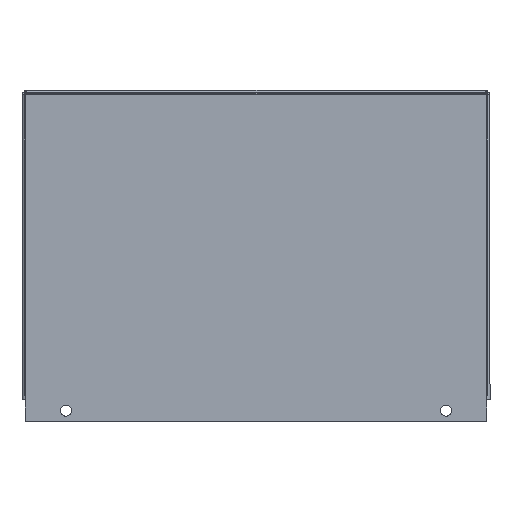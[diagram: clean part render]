
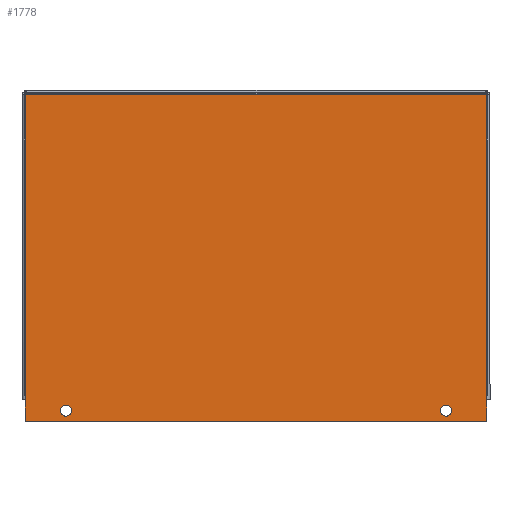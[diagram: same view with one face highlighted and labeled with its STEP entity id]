
A CAD part, left-side view. The second image highlights one B-rep face of the part: STEP entity #1778.
In plain terms, the highlighted planar face has unit normal (-1, 0, 0) as drawn and (0, 0, -1) by its records, which use the part's own axes.
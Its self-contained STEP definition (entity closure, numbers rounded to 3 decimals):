
#622=CARTESIAN_POINT('',(100.228,62.37,0.0));
#623=VERTEX_POINT('',#622);
#630=CARTESIAN_POINT('',(100.228,71.895,0.0));
#631=VERTEX_POINT('',#630);
#632=CARTESIAN_POINT('',(100.228,62.37,0.0));
#633=DIRECTION('',(0.0,1.0,0.0));
#634=VECTOR('',#633,9.525);
#635=LINE('',#632,#634);
#636=EDGE_CURVE('',#623,#631,#635,.T.);
#660=CARTESIAN_POINT('',(-100.228,71.895,0.0));
#661=VERTEX_POINT('',#660);
#677=CARTESIAN_POINT('',(100.228,71.895,0.0));
#678=DIRECTION('',(-1.0,0.0,0.0));
#679=VECTOR('',#678,200.457);
#680=LINE('',#677,#679);
#681=EDGE_CURVE('',#631,#661,#680,.T.);
#846=CARTESIAN_POINT('',(100.228,-70.308,0.0));
#847=VERTEX_POINT('',#846);
#1000=CARTESIAN_POINT('',(100.228,-70.308,0.0));
#1001=DIRECTION('',(0.0,1.0,0.0));
#1002=VECTOR('',#1001,132.678);
#1003=LINE('',#1000,#1002);
#1004=EDGE_CURVE('',#847,#623,#1003,.T.);
#1179=CARTESIAN_POINT('',(100.013,-70.523,0.0));
#1180=VERTEX_POINT('',#1179);
#1317=CARTESIAN_POINT('',(-100.013,-70.523,0.0));
#1318=VERTEX_POINT('',#1317);
#1440=CARTESIAN_POINT('',(-100.013,-70.523,0.0));
#1441=DIRECTION('',(1.0,0.0,0.0));
#1442=VECTOR('',#1441,200.026);
#1443=LINE('',#1440,#1442);
#1444=EDGE_CURVE('',#1318,#1180,#1443,.T.);
#1504=CARTESIAN_POINT('',(100.876,-71.171,0.0));
#1505=DIRECTION('',(0.0,0.0,1.0));
#1506=DIRECTION('',(1.0,0.0,0.0));
#1507=AXIS2_PLACEMENT_3D('',#1504,#1505,#1506);
#1508=CIRCLE('',#1507,1.08);
#1509=EDGE_CURVE('',#847,#1180,#1508,.T.);
#1547=CARTESIAN_POINT('',(-100.228,-70.308,0.0));
#1548=VERTEX_POINT('',#1547);
#1555=CARTESIAN_POINT('',(-100.876,-71.171,0.0));
#1556=DIRECTION('',(0.0,0.0,1.0));
#1557=DIRECTION('',(-1.0,0.0,0.0));
#1558=AXIS2_PLACEMENT_3D('',#1555,#1556,#1557);
#1559=CIRCLE('',#1558,1.08);
#1560=EDGE_CURVE('',#1318,#1548,#1559,.T.);
#1676=CARTESIAN_POINT('',(-100.228,62.37,0.0));
#1677=VERTEX_POINT('',#1676);
#1727=CARTESIAN_POINT('',(-100.228,62.37,0.0));
#1728=DIRECTION('',(0.0,1.0,0.0));
#1729=VECTOR('',#1728,9.525);
#1730=LINE('',#1727,#1729);
#1731=EDGE_CURVE('',#1677,#661,#1730,.T.);
#1736=CARTESIAN_POINT('',(-101.6,-71.895,0.0));
#1737=DIRECTION('',(0.0,0.0,1.0));
#1738=DIRECTION('',(1.0,0.0,0.0));
#1739=AXIS2_PLACEMENT_3D('',#1736,#1737,#1738);
#1740=PLANE('',#1739);
#1741=ORIENTED_EDGE('',*,*,#1004,.F.);
#1742=ORIENTED_EDGE('',*,*,#1509,.T.);
#1743=ORIENTED_EDGE('',*,*,#1444,.F.);
#1744=ORIENTED_EDGE('',*,*,#1560,.T.);
#1745=CARTESIAN_POINT('',(-100.228,-70.308,0.0));
#1746=DIRECTION('',(0.0,1.0,0.0));
#1747=VECTOR('',#1746,132.678);
#1748=LINE('',#1745,#1747);
#1749=EDGE_CURVE('',#1548,#1677,#1748,.T.);
#1750=ORIENTED_EDGE('',*,*,#1749,.T.);
#1751=ORIENTED_EDGE('',*,*,#1731,.T.);
#1752=ORIENTED_EDGE('',*,*,#681,.F.);
#1753=ORIENTED_EDGE('',*,*,#636,.F.);
#1754=EDGE_LOOP('',(#1741,#1742,#1743,#1744,#1750,#1751,#1752,#1753));
#1755=FACE_OUTER_BOUND('',#1754,.T.);
#1756=CARTESIAN_POINT('',(-80.143,67.132,0.0));
#1757=VERTEX_POINT('',#1756);
#1758=CARTESIAN_POINT('',(-82.525,67.132,0.0));
#1759=DIRECTION('',(0.0,0.0,1.0));
#1760=DIRECTION('',(1.0,0.0,0.0));
#1761=AXIS2_PLACEMENT_3D('',#1758,#1759,#1760);
#1762=CIRCLE('',#1761,2.381);
#1763=EDGE_CURVE('',#1757,#1757,#1762,.T.);
#1764=ORIENTED_EDGE('',*,*,#1763,.T.);
#1765=EDGE_LOOP('',(#1764));
#1766=FACE_BOUND('',#1765,.T.);
#1767=CARTESIAN_POINT('',(84.906,67.132,0.0));
#1768=VERTEX_POINT('',#1767);
#1769=CARTESIAN_POINT('',(82.525,67.132,0.0));
#1770=DIRECTION('',(0.0,0.0,1.0));
#1771=DIRECTION('',(1.0,0.0,0.0));
#1772=AXIS2_PLACEMENT_3D('',#1769,#1770,#1771);
#1773=CIRCLE('',#1772,2.381);
#1774=EDGE_CURVE('',#1768,#1768,#1773,.T.);
#1775=ORIENTED_EDGE('',*,*,#1774,.T.);
#1776=EDGE_LOOP('',(#1775));
#1777=FACE_BOUND('',#1776,.T.);
#1778=ADVANCED_FACE('',(#1755,#1766,#1777),#1740,.F.);
